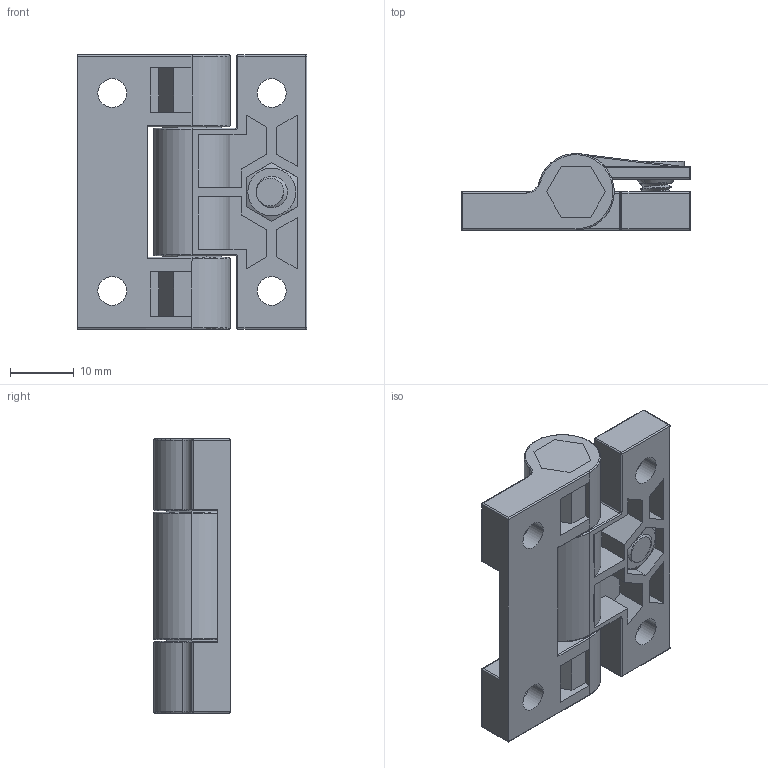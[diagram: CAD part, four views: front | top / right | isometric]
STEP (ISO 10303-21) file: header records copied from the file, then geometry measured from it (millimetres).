
FILE_DESCRIPTION (( 'STEP AP214' ), '1' );
FILE_NAME ('SK2-301-1.STEP', '2020-03-26T03:17:40', ( 'admin' ), ( 'Microsoft' ), 'SwSTEP 2.0', 'SolidWorks 2018', '' );
FILE_SCHEMA (( 'AUTOMOTIVE_DESIGN' ));
Length unit declared in the file: millimetre
Products named in the file (6): 2-301-1-F3; 2-301-1-F5; 2-301-1-F4; 2-301-1-F1; 2-301-1-F2; SK2-301-1
Assembly tree (5 placements, depth 2):
  SK2-301-1
    2-301-1-F2
    2-301-1-F1
    2-301-1-F4
    2-301-1-F5
    2-301-1-F3
Bounding box: 36 x 12 x 43 mm (x, y, z)
Volume: 8992 mm3; surface area: 9423.6 mm2
Topology: 5 solids, 5 shells, 311 faces, 786 edges, 477 vertices
Faces by surface type: plane 157, cylinder 102, torus 23, sphere 20, cone 6, bspline 3
Entity records: 10818 total; most frequent: CARTESIAN_POINT 3213, DIRECTION 1536, ORIENTED_EDGE 1532, EDGE_CURVE 766, AXIS2_PLACEMENT_3D 522, LINE 492, VECTOR 492, VERTEX_POINT 477
